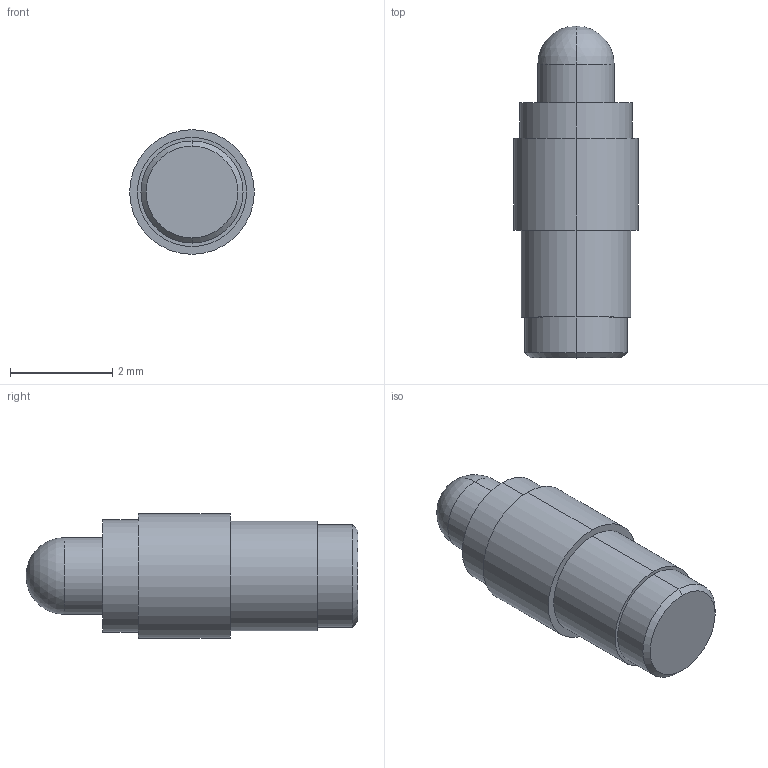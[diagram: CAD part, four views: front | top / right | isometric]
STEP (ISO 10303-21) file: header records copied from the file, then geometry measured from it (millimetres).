
FILE_DESCRIPTION((''),'2;1');
FILE_NAME('PRT0004','2023-05-26T15:20:13',('USER'),(''),'CREO PARAMETRIC BY PTC INC, 2020154','CREO PARAMETRIC BY PTC INC, 2020154','');
FILE_SCHEMA(('CONFIG_CONTROL_DESIGN'));
Length unit declared in the file: millimetre
Products named in the file (1): PRT0004
Bounding box: 2.44 x 6.5 x 2.44 mm (x, y, z)
Volume: 21.9 mm3; surface area: 49.4 mm2
Topology: 1 solids, 1 shells, 19 faces, 38 edges, 23 vertices
Faces by surface type: cylinder 10, plane 5, cone 2, sphere 2
Entity records: 528 total; most frequent: DIRECTION 98, CARTESIAN_POINT 78, ORIENTED_EDGE 72, AXIS2_PLACEMENT_3D 43, EDGE_CURVE 36, CIRCLE 24, VERTEX_POINT 23, EDGE_LOOP 23
